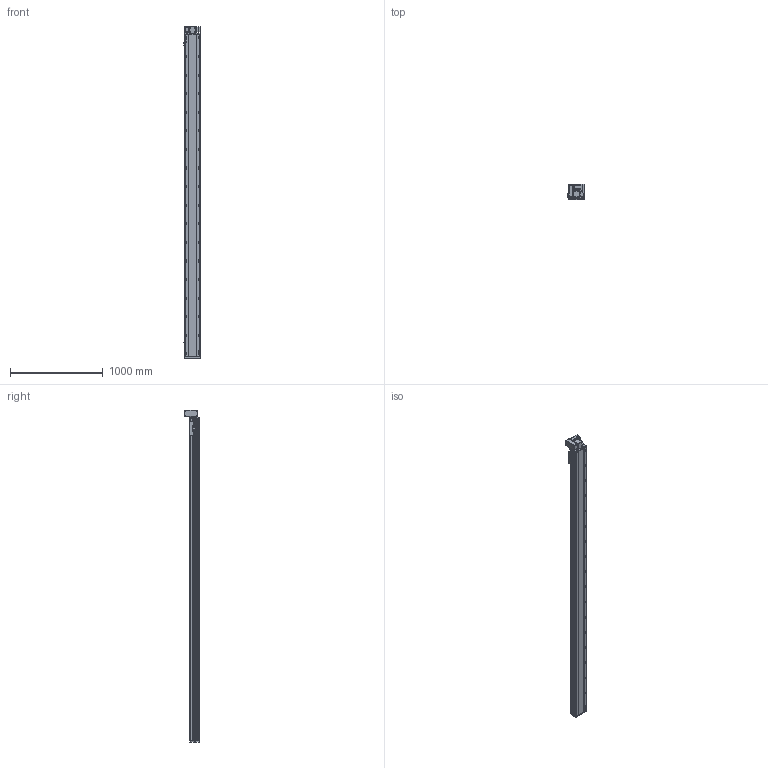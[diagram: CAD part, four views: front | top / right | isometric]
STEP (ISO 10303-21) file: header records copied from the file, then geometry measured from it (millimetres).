
FILE_DESCRIPTION (( 'STEP AP214' ), '1' );
FILE_NAME ('RTB17S-XX-3200-LW-M40-C4.STEP', '2025-12-11T07:22:27', ( '' ), ( '' ), 'SwSTEP 2.0', 'SolidWorks 2018', '' );
FILE_SCHEMA (( 'AUTOMOTIVE_DESIGN' ));
Length unit declared in the file: millimetre
Products named in the file (14): RTB17S-XX-3200-LW-M40-C4; RTB17-R-011菁釱^RTB17S-XX-XX-LW-M40-C4; OMRON EE-SX672 传感器^RTB17S-XX-XX-LW-M40-C4; RTH13-BL-012覜茼え俋离^RTB17S-XX-XX-LW-M40-C4; RTB17S-L-007奻裔^RTB17S-XX-XX-LW-M40-C4; RTB14-L-008-M20--萇儂啣^RTB17S-LW-々湍釱蚾饜-400W_RTB17S-XX-XX-LW-M40-C4; RTB14-L-017P^RTB17S-LW-々湍釱蚾饜-400W_RTB17S-XX-XX-LW-M40-C4; RTB17S-L-001耜醱啣^RTB17S-XX-XX-LW-M40-C4; 400W侜督萇儂^RTB17S-XX-XX-LW-M40-C4; RTB17S-L-014-T20--々湍釱^RTB17S-LW-々湍釱蚾饜-400W_RTB17S-XX-XX-LW-M40-C4; RTB17S-LW-々湍釱蚾饜-400W^RTB17S-XX-XX-LW-M40-C4; RTB14-L-005P--轴承塑胶压盖^RTB17S-LW-皮带座装配-400W_RTB17S-XX-XX-LW-M40-C4; RTB14-L-018P^RTB17S-LW-々湍釱蚾饜-400W_RTB17S-XX-XX-LW-M40-C4; RTB17S-L-004佪裝蹟譫蟀諉釱^RTB17S-XX-XX-LW-M40-C4
Assembly tree (16 placements, depth 3):
  RTB17S-XX-3200-LW-M40-C4
    RTB17-R-011菁釱^RTB17S-XX-XX-LW-M40-C4
    RTB17S-L-007奻裔^RTB17S-XX-XX-LW-M40-C4
    OMRON EE-SX672 传感器^RTB17S-XX-XX-LW-M40-C4  x3
    RTB17S-L-001耜醱啣^RTB17S-XX-XX-LW-M40-C4
    400W侜督萇儂^RTB17S-XX-XX-LW-M40-C4
    RTB17S-L-004佪裝蹟譫蟀諉釱^RTB17S-XX-XX-LW-M40-C4
    RTH13-BL-012覜茼え俋离^RTB17S-XX-XX-LW-M40-C4
    RTB17S-LW-々湍釱蚾饜-400W^RTB17S-XX-XX-LW-M40-C4
      RTB17S-L-014-T20--々湍釱^RTB17S-LW-々湍釱蚾饜-400W_RTB17S-XX-XX-LW-M40-C4
      RTB14-L-005P--轴承塑胶压盖^RTB17S-LW-皮带座装配-400W_RTB17S-XX-XX-LW-M40-C4
      RTB14-L-008-M20--萇儂啣^RTB17S-LW-々湍釱蚾饜-400W_RTB17S-XX-XX-LW-M40-C4
      RTB14-L-017P^RTB17S-LW-々湍釱蚾饜-400W_RTB17S-XX-XX-LW-M40-C4  x2
      RTB14-L-018P^RTB17S-LW-々湍釱蚾饜-400W_RTB17S-XX-XX-LW-M40-C4
Bounding box: 186 x 160.5 x 3572.5 mm (x, y, z)
Volume: 30317776.9 mm3; surface area: 3453606.6 mm2
Topology: 15 solids, 15 shells, 2381 faces, 6681 edges, 4365 vertices
Faces by surface type: plane 1090, cylinder 843, bspline 301, cone 139, torus 8
Entity records: 71081 total; most frequent: CARTESIAN_POINT 20286, ORIENTED_EDGE 10206, DIRECTION 9386, EDGE_CURVE 5103, VERTEX_POINT 3353, AXIS2_PLACEMENT_3D 3283, LINE 2820, VECTOR 2820
